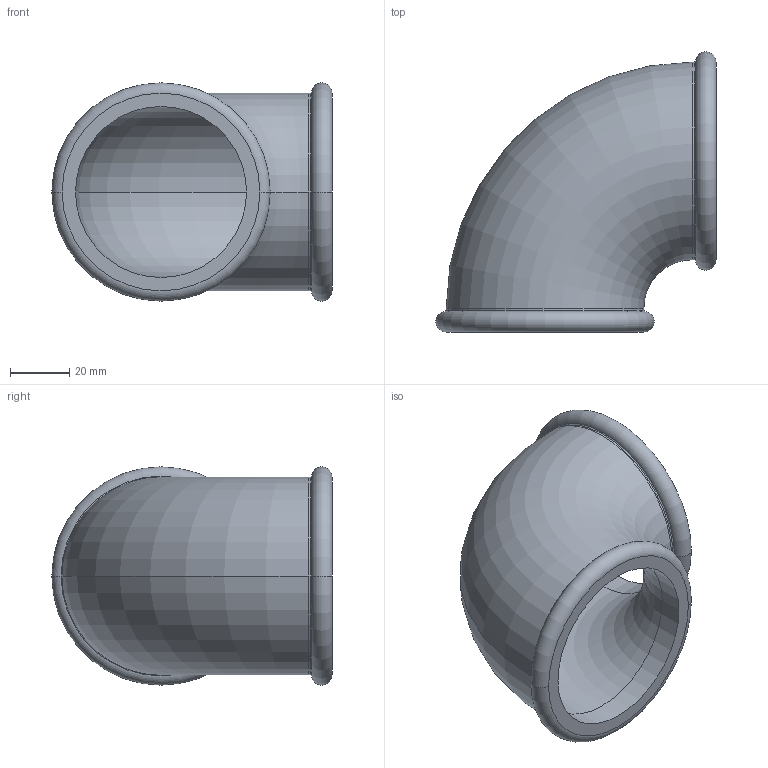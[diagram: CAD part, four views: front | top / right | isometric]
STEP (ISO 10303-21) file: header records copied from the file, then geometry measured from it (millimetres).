
FILE_DESCRIPTION((''),'2;1');
FILE_NAME('71118215','2012-04-25T',('LVVCSAVA'),('Copyright by Leybold GmbH'),'PRO/ENGINEER BY PARAMETRIC TECHNOLOGY CORPORATION, 2010430','PRO/ENGINEER BY PARAMETRIC TECHNOLOGY CORPORATION, 2010430','');
FILE_SCHEMA(('AUTOMOTIVE_DESIGN { 1 0 10303 214 1 1 1 1 }'));
Length unit declared in the file: millimetre
Products named in the file (1): 71118215
Bounding box: 95 x 95 x 73.99 mm (x, y, z)
Volume: 92004.8 mm3; surface area: 40819 mm2
Topology: 1 solids, 1 shells, 22 faces, 44 edges, 24 vertices
Faces by surface type: torus 12, cylinder 8, plane 2
Entity records: 870 total; most frequent: DIRECTION 124, CARTESIAN_POINT 92, ORIENTED_EDGE 88, AXIS2_PLACEMENT_3D 58, PROPERTY_DEFINITION 46, REPRESENTATION 45, PROPERTY_DEFINITION_REPRESENTATION 45, EDGE_CURVE 44
